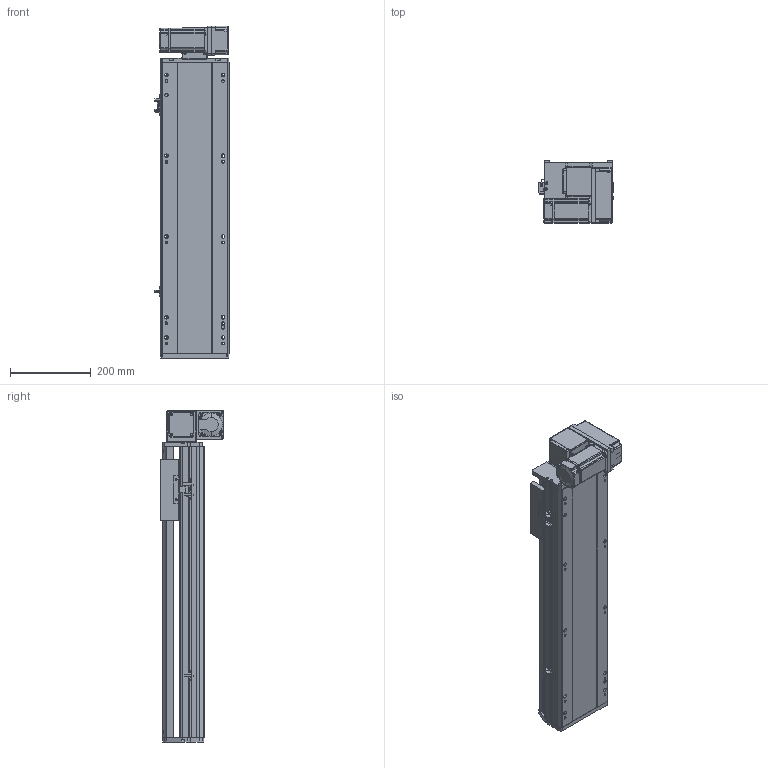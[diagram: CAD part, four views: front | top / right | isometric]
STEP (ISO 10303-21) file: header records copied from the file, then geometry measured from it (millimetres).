
FILE_DESCRIPTION (( 'STEP AP214' ), '1' );
FILE_NAME ('RTB17S-XX-450-RM-M40-C4.STEP', '2025-12-11T08:11:26', ( '' ), ( '' ), 'SwSTEP 2.0', 'SolidWorks 2018', '' );
FILE_SCHEMA (( 'AUTOMOTIVE_DESIGN' ));
Length unit declared in the file: millimetre
Products named in the file (14): RTB14-L-005P--轴承塑胶压盖^RTB17S-RM-皮带座装配-400W_RTB17S-XX-XX-RM-M40-C4; 400W侜督萇儂^RTB17S-XX-XX-RM-M40-C4; RTB14-L-017P^RTB17S-RM-々湍釱蚾饜-400W_RTB17S-XX-XX-RM-M40-C4; RTB17S-L-007奻裔^RTB17S-XX-XX-RM-M40-C4; OMRON EE-SX672 传感器^RTB17S-XX-XX-RM-M40-C4; RTB17-R-011菁釱^RTB17S-XX-XX-RM-M40-C4; RTB17S-XX-450-RM-M40-C4; RTB17S-L-004佪裝蹟譫蟀諉釱^RTB17S-XX-XX-RM-M40-C4; RTB14-L-018P^RTB17S-RM-々湍釱蚾饜-400W_RTB17S-XX-XX-RM-M40-C4; RTB17S-RM-々湍釱蚾饜-400W^RTB17S-XX-XX-RM-M40-C4; RTB14-L-008-M20--萇儂啣^RTB17S-RM-々湍釱蚾饜-400W_RTB17S-XX-XX-RM-M40-C4; RTH13-BL-012覜茼え俋离^RTB17S-XX-XX-RM-M40-C4; RTB17S-L-001耜醱啣^RTB17S-XX-XX-RM-M40-C4; RTB17S-L-014-T20--々湍釱^RTB17S-RM-々湍釱蚾饜-400W_RTB17S-XX-XX-RM-M40-C4
Assembly tree (16 placements, depth 3):
  RTB17S-XX-450-RM-M40-C4
    RTB17-R-011菁釱^RTB17S-XX-XX-RM-M40-C4
    RTB17S-L-007奻裔^RTB17S-XX-XX-RM-M40-C4
    OMRON EE-SX672 传感器^RTB17S-XX-XX-RM-M40-C4  x3
    RTB17S-L-001耜醱啣^RTB17S-XX-XX-RM-M40-C4
    400W侜督萇儂^RTB17S-XX-XX-RM-M40-C4
    RTB17S-L-004佪裝蹟譫蟀諉釱^RTB17S-XX-XX-RM-M40-C4
    RTH13-BL-012覜茼え俋离^RTB17S-XX-XX-RM-M40-C4
    RTB17S-RM-々湍釱蚾饜-400W^RTB17S-XX-XX-RM-M40-C4
      RTB17S-L-014-T20--々湍釱^RTB17S-RM-々湍釱蚾饜-400W_RTB17S-XX-XX-RM-M40-C4
      RTB14-L-005P--轴承塑胶压盖^RTB17S-RM-皮带座装配-400W_RTB17S-XX-XX-RM-M40-C4
      RTB14-L-008-M20--萇儂啣^RTB17S-RM-々湍釱蚾饜-400W_RTB17S-XX-XX-RM-M40-C4
      RTB14-L-017P^RTB17S-RM-々湍釱蚾饜-400W_RTB17S-XX-XX-RM-M40-C4  x2
      RTB14-L-018P^RTB17S-RM-々湍釱蚾饜-400W_RTB17S-XX-XX-RM-M40-C4
Bounding box: 183.5 x 156.5 x 822.5 mm (x, y, z)
Volume: 7883927 mm3; surface area: 1010753.2 mm2
Topology: 15 solids, 15 shells, 2173 faces, 5979 edges, 3897 vertices
Faces by surface type: plane 1064, cylinder 661, bspline 301, cone 139, torus 8
Entity records: 61097 total; most frequent: CARTESIAN_POINT 16984, ORIENTED_EDGE 8802, DIRECTION 8216, EDGE_CURVE 4401, VERTEX_POINT 2885, AXIS2_PLACEMENT_3D 2815, VECTOR 2586, LINE 2586
